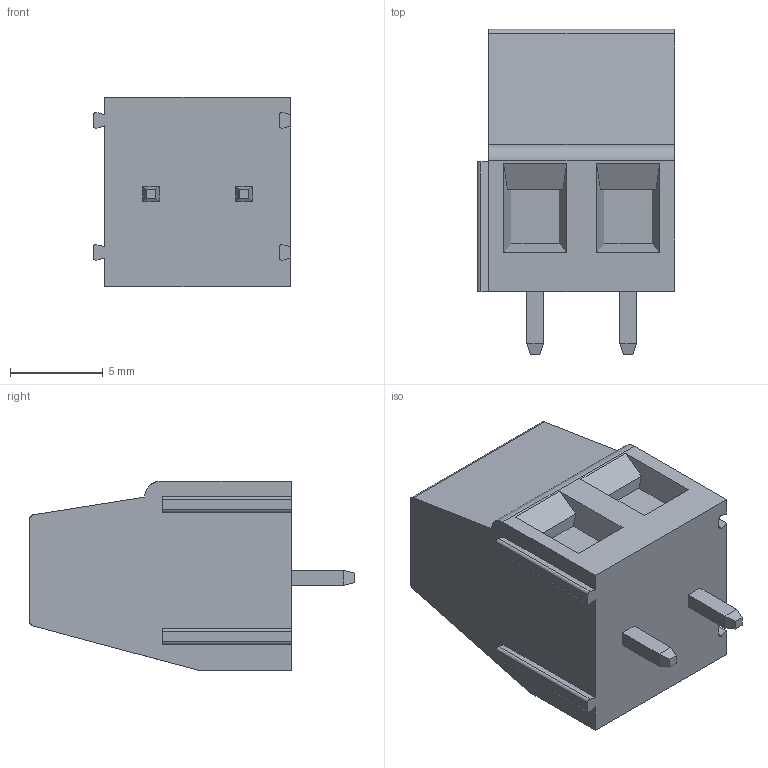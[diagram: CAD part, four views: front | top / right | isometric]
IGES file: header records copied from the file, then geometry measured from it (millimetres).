
Start section: SolidWorks IGES file using analytic representation for surfaces
Global section: file name: D:\OneDrive\00_MOITECH\01_Projects\2020\Metaltex\Modeling\Componentes\BR2\\_Dn\BR202.IGS; native system: SolidWorks 2019; preprocessor: SolidWorks 2019; author: Alan; date: 200220.005109; units: millimetre
Bounding box: 10.6 x 17.5 x 10.2 mm (x, y, z)
Surface area: 971.1 mm2 (no closed solid volume)
Topology: 0 solids, 0 shells, 175 faces, 1151 edges, 1151 vertices
Faces by surface type: bspline 132, revolution 43
